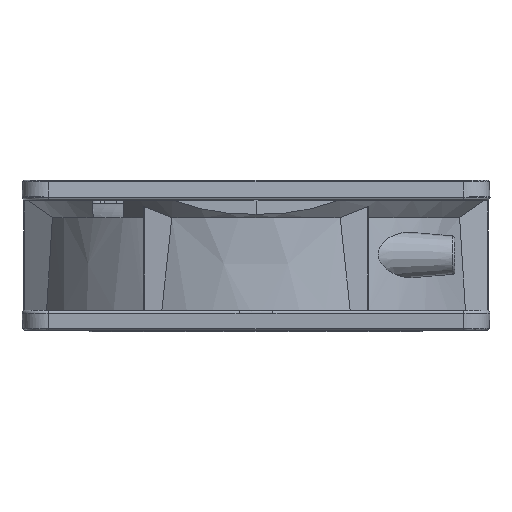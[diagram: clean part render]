
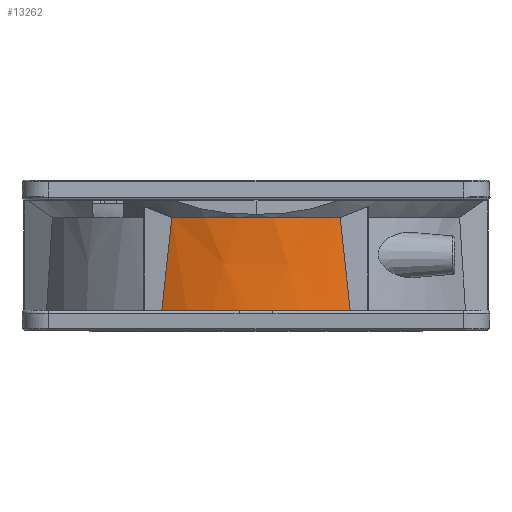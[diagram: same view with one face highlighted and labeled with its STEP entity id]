
A CAD part, left-side view. The second image highlights one B-rep face of the part: STEP entity #13262.
In plain terms, the highlighted conical face has half-angle 1.909 degrees and reference radius 39.478 mm.
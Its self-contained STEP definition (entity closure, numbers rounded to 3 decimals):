
#472=CARTESIAN_POINT('',(-139.16,0.,-18.899));
#473=DIRECTION('',(0.,0.,-1.));
#474=DIRECTION('',(-0.914,-0.407,0.));
#475=AXIS2_PLACEMENT_3D('',#472,#473,#474);
#510=CARTESIAN_POINT('',(-175.47,-16.157,-18.899));
#511=CARTESIAN_POINT('',(-175.486,-15.976,
-17.123));
#512=CARTESIAN_POINT('',(-175.518,-15.609,
-13.578));
#513=CARTESIAN_POINT('',(-175.568,-15.033,
-8.284));
#514=CARTESIAN_POINT('',(-175.603,-14.636,
-4.77));
#515=CARTESIAN_POINT('',(-175.621,-14.432,
-3.017));
#517=CARTESIAN_POINT('',(-175.621,14.432,-3.017));
#518=CARTESIAN_POINT('',(-175.603,14.636,-4.77));
#519=CARTESIAN_POINT('',(-175.568,15.033,-8.284));
#520=CARTESIAN_POINT('',(-175.518,15.609,-13.578));
#521=CARTESIAN_POINT('',(-175.486,15.976,-17.123));
#522=CARTESIAN_POINT('',(-175.47,16.157,-18.899));
#584=CARTESIAN_POINT('',(-139.16,0.,
-3.017));
#585=DIRECTION('',(0.,0.,1.));
#586=DIRECTION('',(-0.93,0.368,0.));
#587=AXIS2_PLACEMENT_3D('',#584,#585,#586);
#594=CARTESIAN_POINT('',(-175.621,14.432,-3.017));
#4773=CARTESIAN_POINT('',(-139.16,0.,-18.899));
#4774=DIRECTION('',(0.,0.,-1.));
#4775=DIRECTION('',(-0.997,0.073,0.));
#4776=AXIS2_PLACEMENT_3D('',#4773,#4774,#4775);
#4821=CARTESIAN_POINT('',(-139.16,0.,-18.899));
#4822=DIRECTION('',(0.,0.,-1.));
#4823=DIRECTION('',(-0.997,-0.073,0.));
#4824=AXIS2_PLACEMENT_3D('',#4821,#4822,#4823);
#10326=CARTESIAN_POINT('',(-175.47,-16.157,-18.899));
#10327=CARTESIAN_POINT('',(-178.796,-2.913,-18.899));
#10328=VERTEX_POINT('',#10326);
#10329=VERTEX_POINT('',#10327);
#10989=VERTEX_POINT('',#594);
#10990=CARTESIAN_POINT('',(-175.621,-14.432,
-3.017));
#10991=VERTEX_POINT('',#10990);
#11036=CARTESIAN_POINT('',(-175.47,16.157,-18.899));
#11037=VERTEX_POINT('',#11036);
#11038=CARTESIAN_POINT('',(-178.796,2.913,-18.899));
#11039=VERTEX_POINT('',#11038);
#13244=CARTESIAN_POINT('',(-139.16,0.,
-10.958));
#13245=DIRECTION('',(0.,0.,-1.));
#13246=DIRECTION('',(0.,-1.,0.));
#13247=AXIS2_PLACEMENT_3D('',#13244,#13245,#13246);
#13248=CONICAL_SURFACE('',#13247,39.478,1.909);
#13250=ORIENTED_EDGE('',*,*,#13249,.F.);
#13251=ORIENTED_EDGE('',*,*,#13219,.T.);
#13253=ORIENTED_EDGE('',*,*,#13252,.T.);
#13255=ORIENTED_EDGE('',*,*,#13254,.T.);
#13257=ORIENTED_EDGE('',*,*,#13256,.F.);
#13259=ORIENTED_EDGE('',*,*,#13258,.T.);
#13260=EDGE_LOOP('',(#13250,#13251,#13253,#13255,#13257,#13259));
#13261=FACE_OUTER_BOUND('',#13260,.F.);
#13262=ADVANCED_FACE('',(#13261),#13248,.T.);
#476=CIRCLE('',#475,39.743);
#516=B_SPLINE_CURVE_WITH_KNOTS('',3,(#510,#511,#512,#513,#514,#515),
.UNSPECIFIED.,.F.,.F.,(4,1,1,4),(0.,0.333,0.667,1.),
.UNSPECIFIED.);
#523=B_SPLINE_CURVE_WITH_KNOTS('',3,(#517,#518,#519,#520,#521,#522),
.UNSPECIFIED.,.F.,.F.,(4,1,1,4),(0.,0.333,0.667,1.),
.UNSPECIFIED.);
#588=CIRCLE('',#587,39.213);
#4777=CIRCLE('',#4776,39.743);
#4825=CIRCLE('',#4824,39.743);
#13219=EDGE_CURVE('',#10328,#10329,#476,.T.);
#13249=EDGE_CURVE('',#10328,#10991,#516,.T.);
#13252=EDGE_CURVE('',#10329,#11039,#4825,.T.);
#13254=EDGE_CURVE('',#11039,#11037,#4777,.T.);
#13256=EDGE_CURVE('',#10989,#11037,#523,.T.);
#13258=EDGE_CURVE('',#10989,#10991,#588,.T.);
